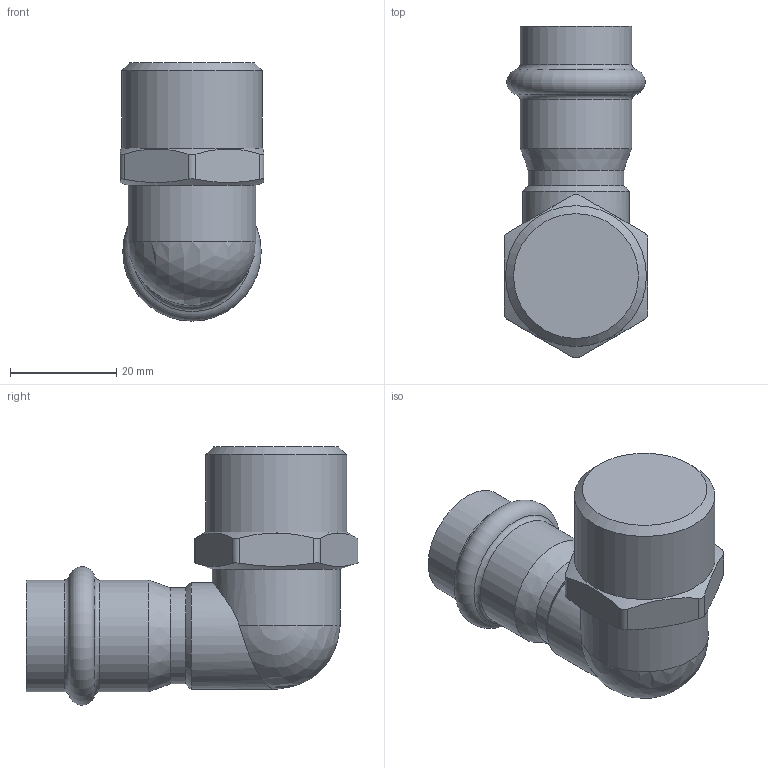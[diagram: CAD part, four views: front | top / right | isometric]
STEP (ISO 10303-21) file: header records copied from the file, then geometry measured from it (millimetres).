
FILE_DESCRIPTION(('STEP AP203'), '1');
FILE_NAME('VTi.953.I.001805', '', ('UNSPECIFIED'), ('UNSPECIFIED'), 'C3D Converter', 'C3D Toolkit', '');
FILE_SCHEMA(('CONFIG_CONTROL_DESIGN'));
Length unit declared in the file: millimetre
Bounding box: 27 x 62.35 x 48.5 mm (x, y, z)
Volume: 34350.7 mm3; surface area: 7076.1 mm2
Topology: 1 solids, 1 shells, 29 faces, 75 edges, 46 vertices
Faces by surface type: cylinder 12, plane 8, cone 5, torus 3, sphere 1
Full cylindrical faces by diameter (mm): 18 x1, 20 x1, 21 x2, 24 x1, 26.441 x1
Entity records: 1939 total; most frequent: CARTESIAN_POINT 1304, ORIENTED_EDGE 118, DIRECTION 106, EDGE_CURVE 59, AXIS2_PLACEMENT_3D 47, VERTEX_POINT 46, EDGE_LOOP 43, B_SPLINE_CURVE_WITH_KNOTS 30
